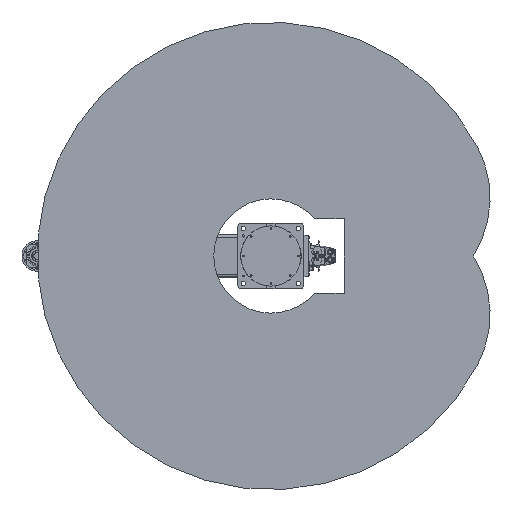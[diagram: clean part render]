
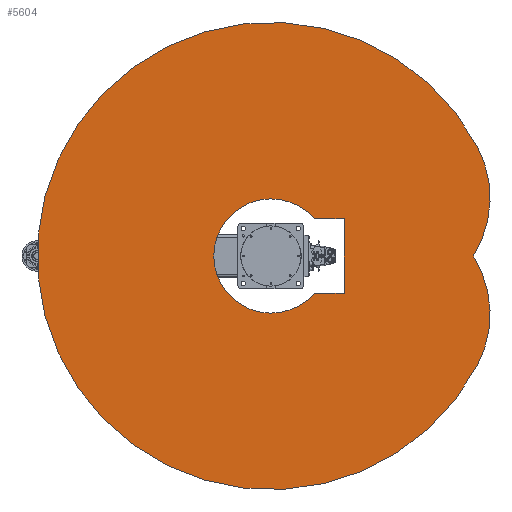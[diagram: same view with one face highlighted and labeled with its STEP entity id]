
A CAD part, front view. The second image highlights one B-rep face of the part: STEP entity #5604.
In plain terms, the highlighted planar face has unit normal (0, -1, 0).
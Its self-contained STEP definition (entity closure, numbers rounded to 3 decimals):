
#5604 = ADVANCED_FACE( '', ( #12558, #12559 ), #12560, .F. );
#12558 = FACE_BOUND( '', #21482, .T. );
#12559 = FACE_OUTER_BOUND( '', #21483, .T. );
#12560 = PLANE( '', #21484 );
#21482 = EDGE_LOOP( '', ( #37376, #37377, #37378, #37379 ) );
#21483 = EDGE_LOOP( '', ( #37380, #37381, #37382 ) );
#21484 = AXIS2_PLACEMENT_3D( '', #37383, #37384, #37385 );
#37376 = ORIENTED_EDGE( '', *, *, #47051, .T. );
#37377 = ORIENTED_EDGE( '', *, *, #50634, .T. );
#37378 = ORIENTED_EDGE( '', *, *, #50635, .T. );
#37379 = ORIENTED_EDGE( '', *, *, #50636, .T. );
#37380 = ORIENTED_EDGE( '', *, *, #50637, .F. );
#37381 = ORIENTED_EDGE( '', *, *, #50638, .F. );
#37382 = ORIENTED_EDGE( '', *, *, #47834, .F. );
#37383 = CARTESIAN_POINT( '', ( 105.631, 0., 198.663 ) );
#37384 = DIRECTION( '', ( 0., 1., 0. ) );
#37385 = DIRECTION( '', ( 0., 0., 1. ) );
#47051 = EDGE_CURVE( '', #56402, #56403, #56404, .T. );
#47834 = EDGE_CURVE( '', #57666, #57667, #57668, .T. );
#50634 = EDGE_CURVE( '', #56403, #61661, #61662, .T. );
#50635 = EDGE_CURVE( '', #61661, #61663, #61664, .T. );
#50636 = EDGE_CURVE( '', #61663, #56402, #61665, .T. );
#50637 = EDGE_CURVE( '', #61666, #57666, #61667, .T. );
#50638 = EDGE_CURVE( '', #57667, #61666, #61668, .T. );
#56402 = VERTEX_POINT( '', #70904 );
#56403 = VERTEX_POINT( '', #70905 );
#56404 = LINE( '', #70906, #70907 );
#57666 = VERTEX_POINT( '', #73069 );
#57667 = VERTEX_POINT( '', #73070 );
#57668 = CIRCLE( '', #73071, 850. );
#61661 = VERTEX_POINT( '', #79894 );
#61662 = CIRCLE( '', #79895, 207.8 );
#61663 = VERTEX_POINT( '', #79896 );
#61664 = LINE( '', #79897, #79898 );
#61665 = LINE( '', #79899, #79900 );
#61666 = VERTEX_POINT( '', #79901 );
#61667 = CIRCLE( '', #79902, 400. );
#61668 = CIRCLE( '', #79903, 400. );
#70904 = CARTESIAN_POINT( '', ( 135., 0., 267. ) );
#70905 = CARTESIAN_POINT( '', ( 135., 0., 157.974 ) );
#70906 = CARTESIAN_POINT( '', ( 135., 0., 267. ) );
#70907 = VECTOR( '', #85643, 1000. );
#73069 = CARTESIAN_POINT( '', ( 399.051, 0., 750.505 ) );
#73070 = CARTESIAN_POINT( '', ( -399.051, 0., 750.505 ) );
#73071 = AXIS2_PLACEMENT_3D( '', #86605, #86606, #86607 );
#79894 = CARTESIAN_POINT( '', ( -135., 0., 157.974 ) );
#79895 = AXIS2_PLACEMENT_3D( '', #89712, #89713, #89714 );
#79896 = CARTESIAN_POINT( '', ( -135., 0., 267. ) );
#79897 = CARTESIAN_POINT( '', ( -135., 0., 157.974 ) );
#79898 = VECTOR( '', #89715, 1000. );
#79899 = CARTESIAN_POINT( '', ( -135., 0., 267. ) );
#79900 = VECTOR( '', #89716, 1000. );
#79901 = CARTESIAN_POINT( '', ( 0., 0., 736.985 ) );
#79902 = AXIS2_PLACEMENT_3D( '', #89717, #89718, #89719 );
#79903 = AXIS2_PLACEMENT_3D( '', #89720, #89721, #89722 );
#85643 = DIRECTION( '', ( 0., 0., -1. ) );
#86605 = CARTESIAN_POINT( '', ( 0., 0., 0. ) );
#86606 = DIRECTION( '', ( 0., 1., 0. ) );
#86607 = DIRECTION( '', ( 1., 0., 0. ) );
#89712 = CARTESIAN_POINT( '', ( 0., 0., 0. ) );
#89713 = DIRECTION( '', ( 0., 1., 0. ) );
#89714 = DIRECTION( '', ( 1., 0., 0. ) );
#89715 = DIRECTION( '', ( 0., 0., 1. ) );
#89716 = DIRECTION( '', ( 1., 0., 0. ) );
#89717 = CARTESIAN_POINT( '', ( 211.262, 0., 397.326 ) );
#89718 = DIRECTION( '', ( 0., 1., 0. ) );
#89719 = DIRECTION( '', ( 1., 0., 0. ) );
#89720 = CARTESIAN_POINT( '', ( -211.262, 0., 397.326 ) );
#89721 = DIRECTION( '', ( 0., 1., 0. ) );
#89722 = DIRECTION( '', ( 1., 0., 0. ) );
